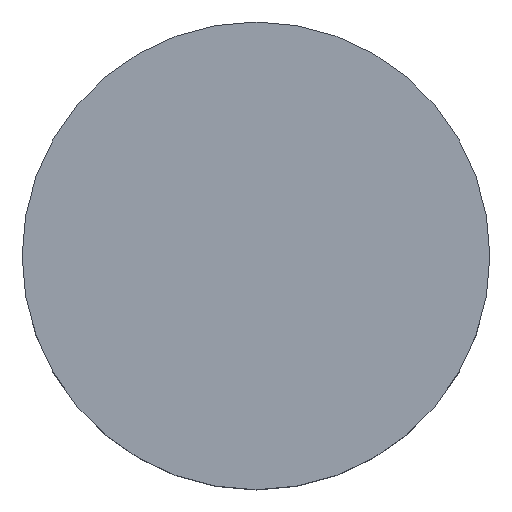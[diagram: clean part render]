
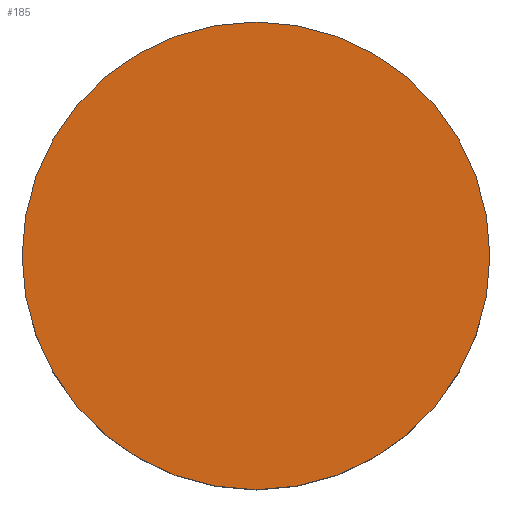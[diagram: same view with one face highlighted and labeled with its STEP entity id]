
A CAD part, top view. The second image highlights one B-rep face of the part: STEP entity #185.
In plain terms, the highlighted planar face has unit normal (0, 0, 1).
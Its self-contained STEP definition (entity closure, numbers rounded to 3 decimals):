
#185=ADVANCED_FACE('',(#233),#222,.T.);
#222=PLANE('',#622);
#233=FACE_OUTER_BOUND('',#261,.T.);
#261=EDGE_LOOP('',(#307,#308));
#307=ORIENTED_EDGE('',*,*,#497,.F.);
#308=ORIENTED_EDGE('',*,*,#498,.F.);
#451=VERTEX_POINT('',#907);
#452=VERTEX_POINT('',#908);
#497=EDGE_CURVE('',#451,#452,#569,.T.);
#498=EDGE_CURVE('',#452,#451,#570,.T.);
#569=CIRCLE('',#620,8.);
#570=CIRCLE('',#621,8.);
#620=AXIS2_PLACEMENT_3D('',#906,#709,#710);
#621=AXIS2_PLACEMENT_3D('',#909,#711,#712);
#622=AXIS2_PLACEMENT_3D('',#910,#713,#714);
#709=DIRECTION('',(0.,0.,-1.));
#710=DIRECTION('',(0.,1.,0.));
#711=DIRECTION('',(0.,0.,-1.));
#712=DIRECTION('',(0.,-1.,0.));
#713=DIRECTION('',(0.,0.,1.));
#714=DIRECTION('',(0.,-1.,0.));
#906=CARTESIAN_POINT('',(0.,0.,5.));
#907=CARTESIAN_POINT('',(8.,0.,5.));
#908=CARTESIAN_POINT('',(-8.,0.,5.));
#909=CARTESIAN_POINT('',(0.,0.,5.));
#910=CARTESIAN_POINT('',(0.,0.,5.));
